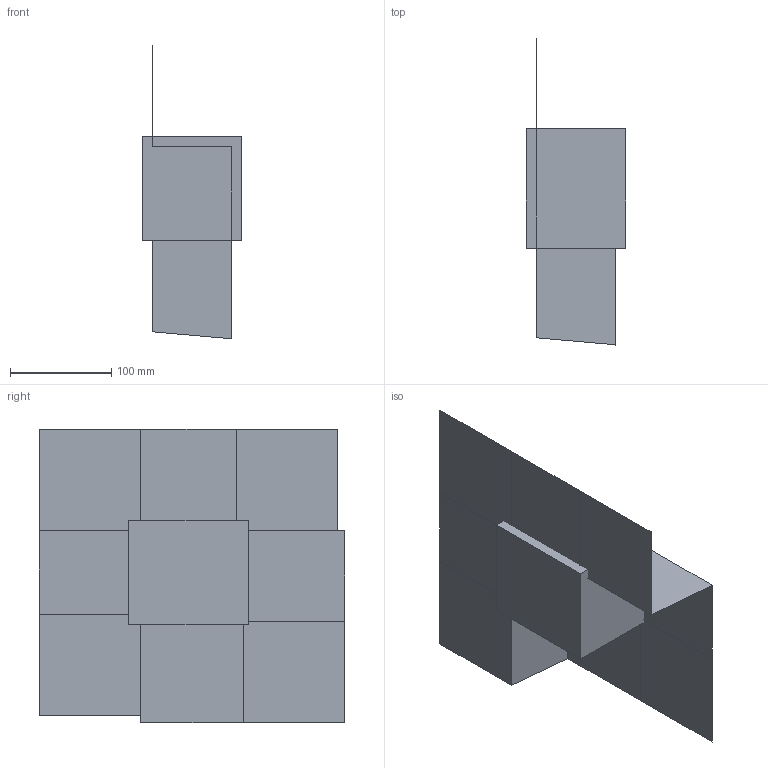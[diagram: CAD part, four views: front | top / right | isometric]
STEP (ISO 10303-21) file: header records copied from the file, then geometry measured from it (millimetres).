
FILE_DESCRIPTION(('CATIA V5 STEP Exchange'),'2;1');
FILE_NAME('C:\_Andres\UNIVERSIDAD\IQS\ASIGNATURAS\DAO\EXF\EXF-15161c\1original\Forés_Garriga_Ej02-moldes_v8.stp','2016-03-04T15:45:35+00:00',('none'),('none'),'CATIA Version 5 Release 20 SP 1 (IN-10)','CATIA V5 STEP AP203','none');
FILE_SCHEMA(('CONFIG_CONTROL_DESIGN'));
Length unit declared in the file: millimetre
Products named in the file (1): Forés_Garriga_Ej02-moldes_v8
Bounding box: 98 x 301.26 x 289.26 mm (x, y, z)
Volume: 2531323.6 mm3; surface area: 318684.9 mm2
Topology: 3 solids, 7 shells, 45 faces, 118 edges, 83 vertices
Faces by surface type: plane 41, cylinder 4
Entity records: 1101 total; most frequent: ORIENTED_EDGE 198, CARTESIAN_POINT 179, DIRECTION 147, EDGE_CURVE 83, VECTOR 73, LINE 73, VERTEX_POINT 56, EDGE_LOOP 49
